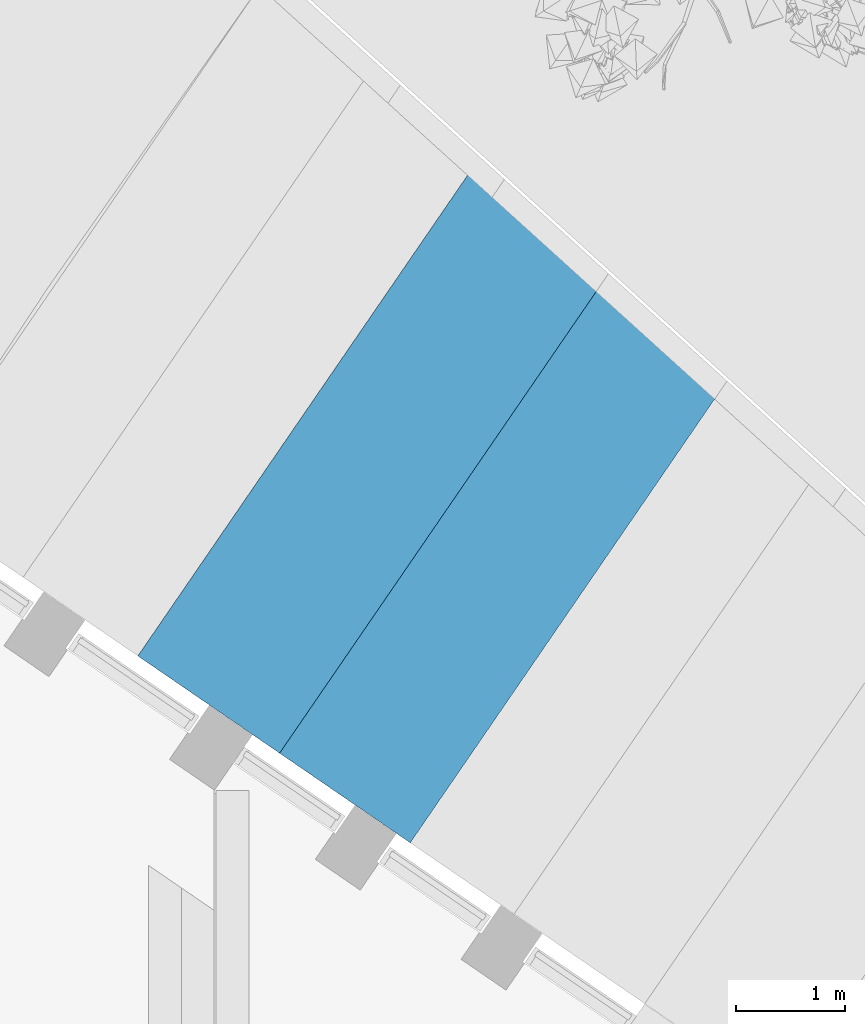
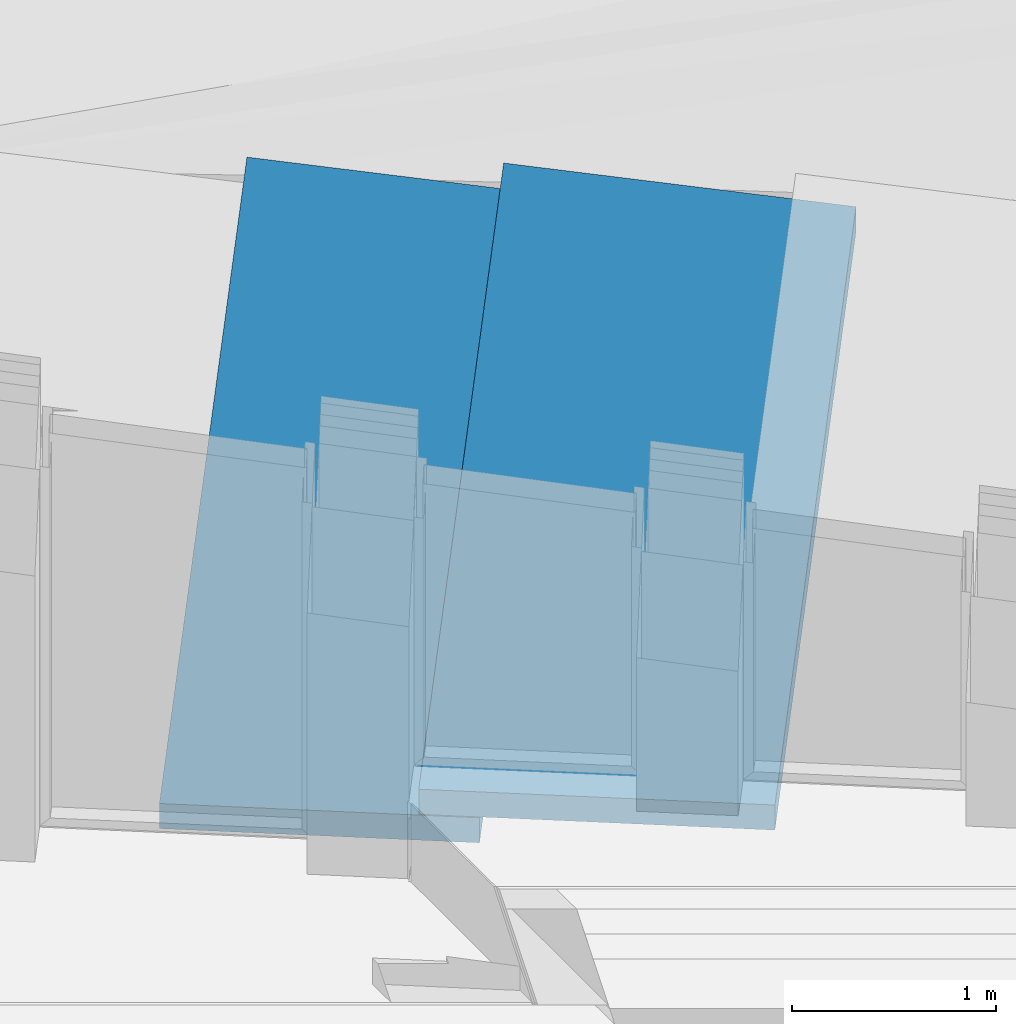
# One storey, part 140 of 246: 2 stairs.
"""IFC2X3 building model written with IfcOpenShell, lengths in millimetres."""

from ifc_helpers import new_model, entity, si_unit, converted_unit, derived_unit, money_unit, direction, frame, origin_with_axes, place, context, subcontext, project, spatial, faceted_brep, material, element, save


model = new_model("IFC2X3")

# Units and contexts
model_context = context("Model", 3, precision=0.01, world=origin_with_axes(), true_north=direction((0.0, 1.0)))
body_context = subcontext(model_context, "Body", "Model", "MODEL_VIEW")
ifc_project = project(units=[si_unit("LENGTHUNIT", "METRE", prefix="MILLI"), si_unit("AREAUNIT", "SQUARE_METRE"), si_unit("VOLUMEUNIT", "CUBIC_METRE"), converted_unit("PLANEANGLEUNIT", "DEGREE", entity("IfcPlaneAngleMeasure", 0.0174532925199), si_unit("PLANEANGLEUNIT", "RADIAN"), dimensions=[0, 0, 0, 0, 0, 0, 0]), si_unit("SOLIDANGLEUNIT", "STERADIAN"), money_unit("EUR"), converted_unit("TIMEUNIT", "Year", entity("IfcTimeMeasure", 31556926.0), si_unit("TIMEUNIT", "SECOND"), dimensions=[0, 0, 1, 0, 0, 0, 0]), si_unit("MASSUNIT", "GRAM", prefix="KILO"), si_unit("THERMODYNAMICTEMPERATUREUNIT", "DEGREE_CELSIUS"), si_unit("LUMINOUSINTENSITYUNIT", "LUMEN"), si_unit("ENERGYUNIT", "JOULE", prefix="MEGA"), derived_unit("THERMALCONDUCTANCEUNIT", [(si_unit("POWERUNIT", "WATT"), 1), (si_unit("LENGTHUNIT", "METRE"), -1), (si_unit("THERMODYNAMICTEMPERATUREUNIT", "KELVIN"), -1)]), derived_unit("SPECIFICHEATCAPACITYUNIT", [(si_unit("ENERGYUNIT", "JOULE"), 1), (si_unit("MASSUNIT", "GRAM", prefix="KILO"), -1), (si_unit("THERMODYNAMICTEMPERATUREUNIT", "KELVIN"), -1)]), derived_unit("MASSDENSITYUNIT", [(si_unit("MASSUNIT", "GRAM", prefix="KILO"), 1), (si_unit("VOLUMEUNIT", "CUBIC_METRE"), -1)])], contexts=[model_context])

# Site, building, storey
site_placement = place(None, origin_with_axes())
site = spatial("IfcSite", under=ifc_project, at=site_placement, Name="L.Koidula tn 11b", CompositionType="ELEMENT")
building_placement = place(site_placement, origin_with_axes())
building = spatial("IfcBuilding", under=site, at=building_placement, Name="Rakvere Riigigümnaasium", CompositionType="ELEMENT")
storey_placement = place(building_placement, origin_with_axes())
storey = spatial("IfcBuildingStorey", under=building, at=storey_placement, Name="1.korrus 0,00", CompositionType="ELEMENT", Elevation=0.0)

# Stairs
ifc_material = material(Name="Betoon")
stair_1_placement = place(storey_placement, frame((49722.1811383, 42597.304218, 415.20366831), z_axis=(0.0, 0.0, 1.0), x_axis=(1.0, 0.0, 0.0)))
element("IfcStair", 1, at=stair_1_placement, inside=storey, material=ifc_material, Name="Astmestik-2", ShapeType="NOTDEFINED", context=body_context, shape_type="Brep", body=[
    faceted_brep([(0.0, 0.0, 0.0), (0.0, 0.0, -150.0), (1299.10842007, -891.02917762, -150.0), (1299.10842007, -891.02917762, 0.0), (3135.71793081, 4571.83408716, 0.0), (3135.71793081, 4571.83408716, -150.0), (4313.77586297, 3504.31494483, -150.0), (4313.77586297, 3504.31494483, 0.0)], [[[0, 1, 2, 3]], [[4, 5, 1, 0]], [[2, 1, 5, 6]], [[3, 2, 6, 7]], [[4, 0, 3, 7]], [[7, 6, 5, 4]]]),
])
stair_2_placement = place(storey_placement, frame((50774.7143984, 41875.3953837, 570.20366831), z_axis=(0.0, 0.0, 1.0), x_axis=(1.0, 0.0, 0.0)))
element("IfcStair", 2, at=stair_2_placement, inside=storey, material=ifc_material, Name="Astmestik-2", ShapeType="NOTDEFINED", context=body_context, shape_type="Brep", body=[
    faceted_brep([(0.0, 0.0, 0.0), (0.0, 0.0, -150.0), (1444.96721117, -991.070434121, -150.0), (1444.96721117, -991.070434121, 0.0), (3037.64323379, 4428.84251304, 0.0), (3037.64323379, 4428.84251304, -150.0), (4347.96888369, 3241.46651415, -150.0), (4347.96888369, 3241.46651415, 0.0)], [[[0, 1, 2, 3]], [[4, 5, 1, 0]], [[2, 1, 5, 6]], [[3, 2, 6, 7]], [[4, 0, 3, 7]], [[7, 6, 5, 4]]]),
])

save(model, "model.ifc")
